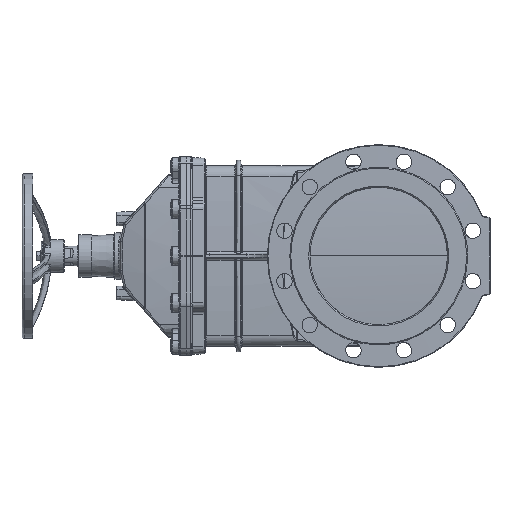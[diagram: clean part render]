
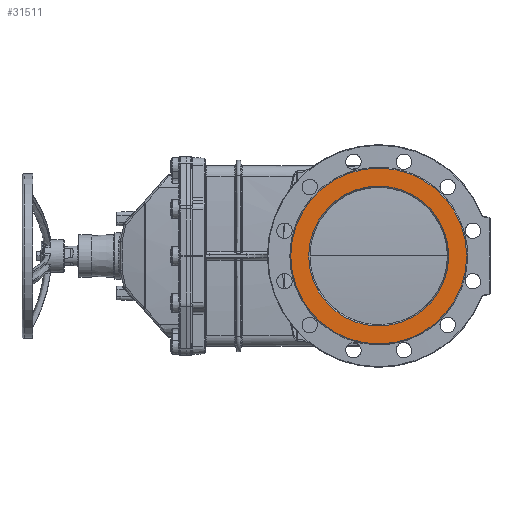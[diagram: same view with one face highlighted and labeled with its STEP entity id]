
A CAD part, left-side view. The second image highlights one B-rep face of the part: STEP entity #31511.
In plain terms, the highlighted planar face has unit normal (-1, 0, 0).
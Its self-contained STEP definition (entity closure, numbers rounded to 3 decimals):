
#4688 = CARTESIAN_POINT ( 'NONE',  ( -125., 202.5, 0. ) ) ;
#4702 = PLANE ( 'NONE',  #4991 ) ;
#4989 = FACE_BOUND ( 'NONE', #31512, .T. ) ;
#4991 = AXIS2_PLACEMENT_3D ( 'NONE', #4688, #5094, #5092 ) ;
#4997 = FACE_OUTER_BOUND ( 'NONE', #30678, .T. ) ;
#5092 = DIRECTION ( 'NONE',  ( 0., 0., 1. ) ) ;
#5094 = DIRECTION ( 'NONE',  ( -1., 0., 0. ) ) ;
#5752 = EDGE_CURVE ( 'NONE', #61235, #61235, #79562, .T. ) ;
#5874 = EDGE_CURVE ( 'NONE', #61233, #61233, #76923, .T. ) ;
#30678 = EDGE_LOOP ( 'NONE', ( #32345 ) ) ;
#31511 = ADVANCED_FACE ( 'NONE', ( #4997, #4989 ), #4702, .T. ) ;
#31512 = EDGE_LOOP ( 'NONE', ( #32382 ) ) ;
#32345 = ORIENTED_EDGE ( 'NONE', *, *, #5874, .T. ) ;
#32382 = ORIENTED_EDGE ( 'NONE', *, *, #5752, .T. ) ;
#61230 = CARTESIAN_POINT ( 'NONE',  ( -125., 0., 160. ) ) ;
#61232 = CARTESIAN_POINT ( 'NONE',  ( -125., 0., 127.309 ) ) ;
#61233 = VERTEX_POINT ( 'NONE', #61230 ) ;
#61235 = VERTEX_POINT ( 'NONE', #61232 ) ;
#76858 = CARTESIAN_POINT ( 'NONE',  ( -125., 0., 0. ) ) ;
#76923 = CIRCLE ( 'NONE', #76983, 160. ) ;
#76926 = DIRECTION ( 'NONE',  ( -1., 0., 0. ) ) ;
#76983 = AXIS2_PLACEMENT_3D ( 'NONE', #76858, #76926, #77545 ) ;
#77545 = DIRECTION ( 'NONE',  ( 0., 0., 1. ) ) ;
#79527 = DIRECTION ( 'NONE',  ( 0., 0., 1. ) ) ;
#79529 = DIRECTION ( 'NONE',  ( 1., 0., 0. ) ) ;
#79531 = CARTESIAN_POINT ( 'NONE',  ( -125., 0., 0. ) ) ;
#79532 = AXIS2_PLACEMENT_3D ( 'NONE', #79531, #79529, #79527 ) ;
#79562 = CIRCLE ( 'NONE', #79532, 127.309 ) ;
